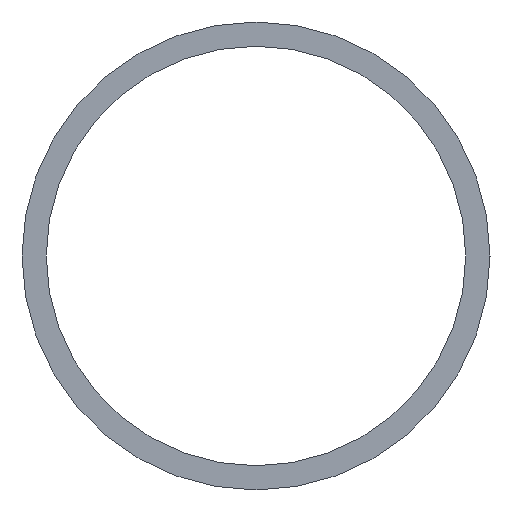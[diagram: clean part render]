
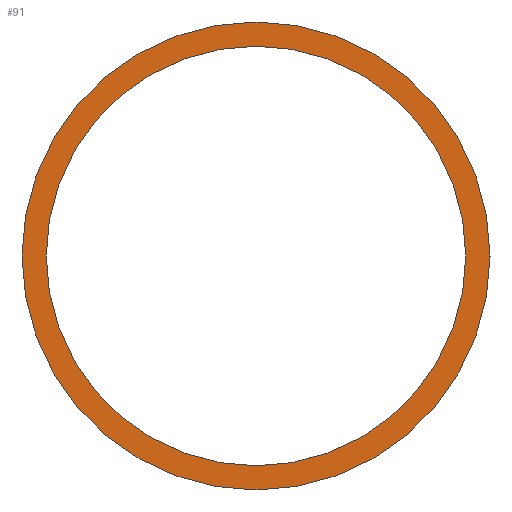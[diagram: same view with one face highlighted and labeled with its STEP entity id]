
A CAD part, left-side view. The second image highlights one B-rep face of the part: STEP entity #91.
In plain terms, the highlighted planar face has unit normal (-1, 0, 0).
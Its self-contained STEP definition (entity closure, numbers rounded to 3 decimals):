
#1 = DIRECTION ( 'NONE',  ( 0., 1., 0. ) ) ;
#7 = ORIENTED_EDGE ( 'NONE', *, *, #33, .T. ) ;
#8 = FACE_BOUND ( 'NONE', #40, .T. ) ;
#12 = CARTESIAN_POINT ( 'NONE',  ( 6030., 3799.15, 3495.85 ) ) ;
#16 = CARTESIAN_POINT ( 'NONE',  ( 6030., 3775., 3495.85 ) ) ;
#23 = ORIENTED_EDGE ( 'NONE', *, *, #116, .T. ) ;
#29 = CARTESIAN_POINT ( 'NONE',  ( 6030., 3775., 3495.85 ) ) ;
#33 = EDGE_CURVE ( 'NONE', #41, #78, #117, .T. ) ;
#38 = CIRCLE ( 'NONE', #171, 21.65 ) ;
#40 = EDGE_LOOP ( 'NONE', ( #23, #7 ) ) ;
#41 = VERTEX_POINT ( 'NONE', #129 ) ;
#44 = DIRECTION ( 'NONE',  ( 1., 0., 0. ) ) ;
#53 = AXIS2_PLACEMENT_3D ( 'NONE', #149, #44, #82 ) ;
#54 = CARTESIAN_POINT ( 'NONE',  ( 6030., 3775., 3495.85 ) ) ;
#67 = DIRECTION ( 'NONE',  ( 1., 0., 0. ) ) ;
#74 = ORIENTED_EDGE ( 'NONE', *, *, #170, .F. ) ;
#78 = VERTEX_POINT ( 'NONE', #100 ) ;
#81 = CARTESIAN_POINT ( 'NONE',  ( 6030., 3775., 3495.85 ) ) ;
#82 = DIRECTION ( 'NONE',  ( 0., 1., 0. ) ) ;
#83 = DIRECTION ( 'NONE',  ( 1., 0., 0. ) ) ;
#85 = CARTESIAN_POINT ( 'NONE',  ( 6030., 3750.85, 3495.85 ) ) ;
#87 = DIRECTION ( 'NONE',  ( 1., 0., 0. ) ) ;
#90 = DIRECTION ( 'NONE',  ( 0., 1., 0. ) ) ;
#91 = ADVANCED_FACE ( 'NONE', ( #106, #8 ), #134, .F. ) ;
#98 = EDGE_CURVE ( 'NONE', #141, #154, #199, .T. ) ;
#100 = CARTESIAN_POINT ( 'NONE',  ( 6030., 3753.35, 3495.85 ) ) ;
#102 = DIRECTION ( 'NONE',  ( 0., 1., 0. ) ) ;
#106 = FACE_OUTER_BOUND ( 'NONE', #192, .T. ) ;
#108 = AXIS2_PLACEMENT_3D ( 'NONE', #16, #143, #90 ) ;
#116 = EDGE_CURVE ( 'NONE', #78, #41, #38, .T. ) ;
#117 = CIRCLE ( 'NONE', #108, 21.65 ) ;
#129 = CARTESIAN_POINT ( 'NONE',  ( 6030., 3796.65, 3495.85 ) ) ;
#134 = PLANE ( 'NONE',  #137 ) ;
#137 = AXIS2_PLACEMENT_3D ( 'NONE', #81, #83, #194 ) ;
#141 = VERTEX_POINT ( 'NONE', #12 ) ;
#143 = DIRECTION ( 'NONE',  ( 1., 0., 0. ) ) ;
#149 = CARTESIAN_POINT ( 'NONE',  ( 6030., 3775., 3495.85 ) ) ;
#154 = VERTEX_POINT ( 'NONE', #85 ) ;
#164 = AXIS2_PLACEMENT_3D ( 'NONE', #54, #87, #1 ) ;
#169 = CIRCLE ( 'NONE', #164, 24.15 ) ;
#170 = EDGE_CURVE ( 'NONE', #154, #141, #169, .T. ) ;
#171 = AXIS2_PLACEMENT_3D ( 'NONE', #29, #67, #102 ) ;
#191 = ORIENTED_EDGE ( 'NONE', *, *, #98, .F. ) ;
#192 = EDGE_LOOP ( 'NONE', ( #74, #191 ) ) ;
#194 = DIRECTION ( 'NONE',  ( 0., 1., 0. ) ) ;
#199 = CIRCLE ( 'NONE', #53, 24.15 ) ;
